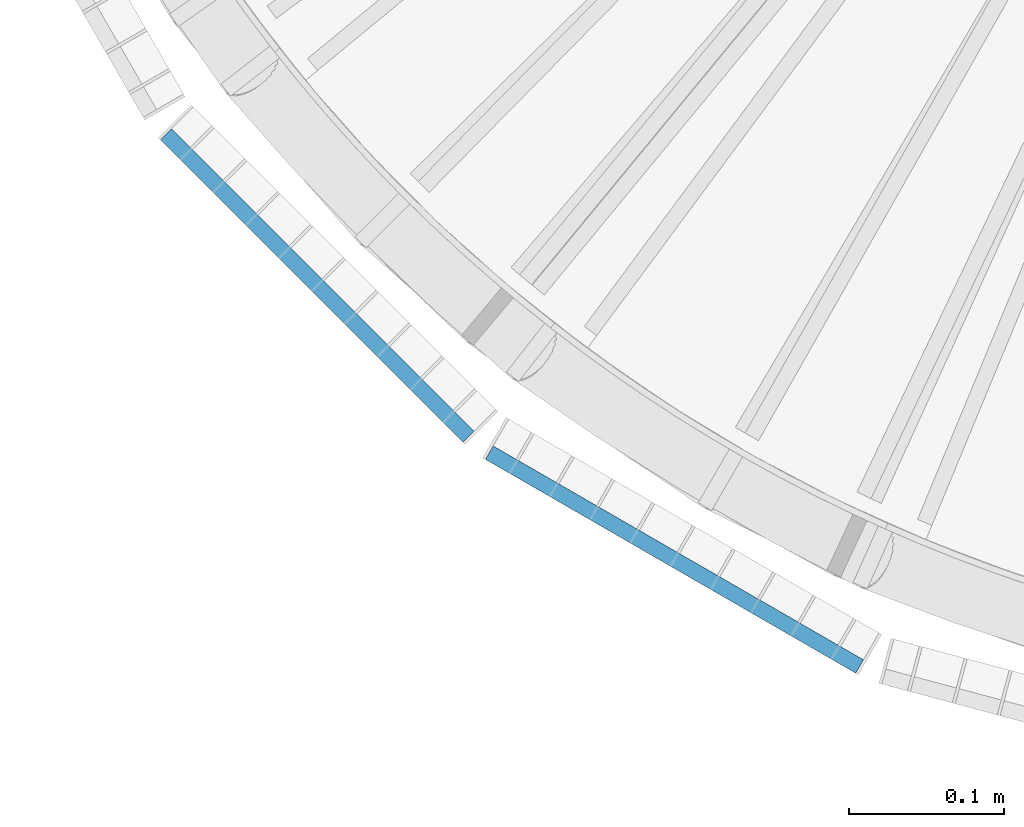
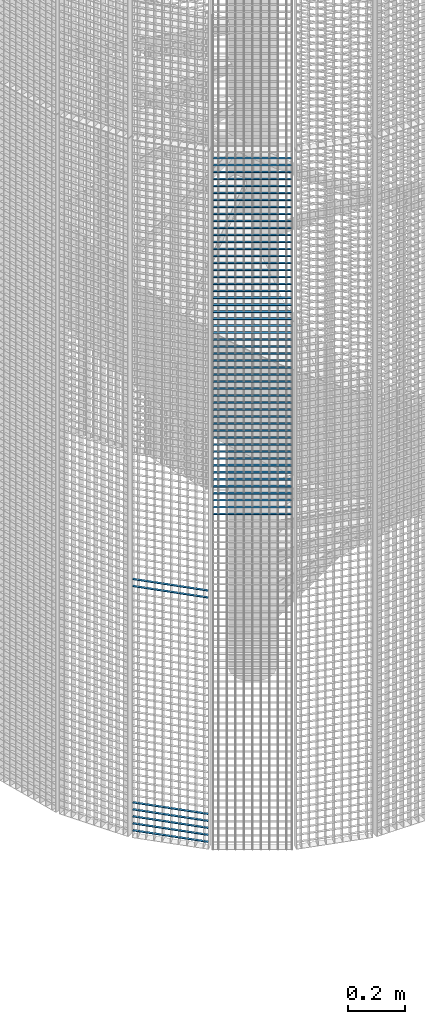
# One storey, part 370 of 1148: 59 beams, 2 elements without a shape of their own.
"""IFC2X3 building model written with IfcOpenShell, lengths in millimetres."""

from ifc_helpers import new_model, si_unit, frame, origin_with_axes, origin_2d_with_axis, place, context, subcontext, project, spatial, rectangle, extrude, material, type_object, element, aggregate, save


model = new_model("IFC2X3")

# Units and contexts
model_context = context("Model", 3, precision=1e-05, world=origin_with_axes())
body_context = subcontext(model_context, "Body", "Model", "MODEL_VIEW")
ifc_project = project(units=[si_unit("LENGTHUNIT", "METRE", prefix="MILLI"), si_unit("AREAUNIT", "SQUARE_METRE"), si_unit("VOLUMEUNIT", "CUBIC_METRE"), si_unit("MASSUNIT", "GRAM", prefix="KILO"), si_unit("TIMEUNIT", "SECOND"), si_unit("PLANEANGLEUNIT", "RADIAN"), si_unit("SOLIDANGLEUNIT", "STERADIAN"), si_unit("THERMODYNAMICTEMPERATUREUNIT", "DEGREE_CELSIUS"), si_unit("LUMINOUSINTENSITYUNIT", "LUMEN")], contexts=[model_context])

# Site, building, storey
site_placement = place(None, origin_with_axes())
site = spatial("IfcSite", under=ifc_project, at=site_placement, Name="Undefined", CompositionType="ELEMENT")
building_placement = place(site_placement, origin_with_axes())
building = spatial("IfcBuilding", under=site, at=building_placement, Name="Undefined", CompositionType="ELEMENT")
storey_placement = place(building_placement, origin_with_axes())
storey = spatial("IfcBuildingStorey", under=building, at=storey_placement, Name="Undefined", CompositionType="ELEMENT", Elevation=0.0)

# Assembly, beams
assembly_1_placement = place(storey_placement, origin_with_axes())
assembly_1 = element("IfcElementAssembly", 1, at=assembly_1_placement, inside=storey, Name="BORDURE", AssemblyPlace="NOTDEFINED", PredefinedType="NOTDEFINED")
ifc_material = material(Name="STEEL/S235JR")
beam_type = type_object("IfcBeamType", Name="PL2*10", PredefinedType="NOTDEFINED")
beam_1_placement = place(assembly_1_placement, frame((20910.2286510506, -884.927168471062, 149.999999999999), z_axis=(-0.70710678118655, -0.707106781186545, 0.0), x_axis=(-0.707106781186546, 0.707106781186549, 0.0)))
beam_1 = element("IfcBeam", 2, at=beam_1_placement, type_object=beam_type, material=ifc_material, Name="ENTRETOISE", context=body_context, shape_type="SweptSolid", body=[
    extrude(rectangle(XDim=2.0, YDim=10.0, at=origin_2d_with_axis()), frame((275.999999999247, 9.09494701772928e-13, 1.53210777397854e-14), z_axis=(-1.0, 0.0, 0.0), x_axis=(0.0, -1.0, 0.0)), (0.0, 0.0, 1.0), 276.0),
])
beam_2_placement = place(assembly_1_placement, frame((20910.2286510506, -884.927168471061, 119.999999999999), z_axis=(-0.70710678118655, -0.707106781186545, 0.0), x_axis=(-0.707106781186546, 0.707106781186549, 0.0)))
beam_2 = element("IfcBeam", 3, at=beam_2_placement, type_object=beam_type, material=ifc_material, Name="ENTRETOISE", context=body_context, shape_type="SweptSolid", body=[
    extrude(rectangle(XDim=2.0, YDim=10.0, at=origin_2d_with_axis()), frame((275.999999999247, 9.09494701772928e-13, 1.53210777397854e-14), z_axis=(-1.0, 0.0, 0.0), x_axis=(0.0, -1.0, 0.0)), (0.0, 0.0, 1.0), 276.0),
])
beam_3_placement = place(assembly_1_placement, frame((20910.2286510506, -884.927168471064, 1080.0), z_axis=(-0.70710678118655, -0.707106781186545, 0.0), x_axis=(-0.707106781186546, 0.707106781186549, 0.0)))
beam_3 = element("IfcBeam", 4, at=beam_3_placement, type_object=beam_type, material=ifc_material, Name="ENTRETOISE", context=body_context, shape_type="SweptSolid", body=[
    extrude(rectangle(XDim=2.0, YDim=10.0, at=origin_2d_with_axis()), frame((275.999999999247, 9.09494701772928e-13, 1.53210777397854e-14), z_axis=(-1.0, 0.0, 0.0), x_axis=(0.0, -1.0, 0.0)), (0.0, 0.0, 1.0), 276.0),
])
beam_4_placement = place(assembly_1_placement, frame((20910.2286510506, -884.927168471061, 89.9999999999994), z_axis=(-0.70710678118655, -0.707106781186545, 0.0), x_axis=(-0.707106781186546, 0.707106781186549, 0.0)))
beam_4 = element("IfcBeam", 5, at=beam_4_placement, type_object=beam_type, material=ifc_material, Name="ENTRETOISE", context=body_context, shape_type="SweptSolid", body=[
    extrude(rectangle(XDim=2.0, YDim=10.0, at=origin_2d_with_axis()), frame((275.999999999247, 9.09494701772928e-13, 1.53210777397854e-14), z_axis=(-1.0, 0.0, 0.0), x_axis=(0.0, -1.0, 0.0)), (0.0, 0.0, 1.0), 276.0),
])
beam_5_placement = place(assembly_1_placement, frame((20910.2286510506, -884.927168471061, 59.9999999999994), z_axis=(-0.70710678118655, -0.707106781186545, 0.0), x_axis=(-0.707106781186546, 0.707106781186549, 0.0)))
beam_5 = element("IfcBeam", 6, at=beam_5_placement, type_object=beam_type, material=ifc_material, Name="ENTRETOISE", context=body_context, shape_type="SweptSolid", body=[
    extrude(rectangle(XDim=2.0, YDim=10.0, at=origin_2d_with_axis()), frame((275.999999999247, 9.09494701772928e-13, 1.53210777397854e-14), z_axis=(-1.0, 0.0, 0.0), x_axis=(0.0, -1.0, 0.0)), (0.0, 0.0, 1.0), 276.0),
])
beam_6_placement = place(assembly_1_placement, frame((20910.2286510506, -884.927168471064, 1110.0), z_axis=(-0.70710678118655, -0.707106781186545, 0.0), x_axis=(-0.707106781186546, 0.707106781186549, 0.0)))
beam_6 = element("IfcBeam", 7, at=beam_6_placement, type_object=beam_type, material=ifc_material, Name="ENTRETOISE", context=body_context, shape_type="SweptSolid", body=[
    extrude(rectangle(XDim=2.0, YDim=10.0, at=origin_2d_with_axis()), frame((275.999999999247, 9.09494701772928e-13, 1.53210777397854e-14), z_axis=(-1.0, 0.0, 0.0), x_axis=(0.0, -1.0, 0.0)), (0.0, 0.0, 1.0), 276.0),
])
beam_7_placement = place(assembly_1_placement, frame((20910.2286510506, -884.92716847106, 29.9999999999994), z_axis=(-0.70710678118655, -0.707106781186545, 0.0), x_axis=(-0.707106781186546, 0.707106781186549, 0.0)))
beam_7 = element("IfcBeam", 8, at=beam_7_placement, type_object=beam_type, material=ifc_material, Name="ENTRETOISE", context=body_context, shape_type="SweptSolid", body=[
    extrude(rectangle(XDim=2.0, YDim=10.0, at=origin_2d_with_axis()), frame((275.999999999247, 9.09494701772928e-13, 1.53210777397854e-14), z_axis=(-1.0, 0.0, 0.0), x_axis=(0.0, -1.0, 0.0)), (0.0, 0.0, 1.0), 276.0),
])
aggregate(assembly_1, [beam_1, beam_2, beam_3, beam_4, beam_5, beam_6, beam_7])

assembly_2_placement = place(storey_placement, origin_with_axes())
assembly_2 = element("IfcElementAssembly", 9, at=assembly_2_placement, inside=storey, Name="BORDURE", AssemblyPlace="NOTDEFINED", PredefinedType="NOTDEFINED")
beam_8_placement = place(assembly_2_placement, frame((21162.7680445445, -1033.29996828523, 2970.0), z_axis=(-0.49999999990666, -0.866025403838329, 0.0), x_axis=(-0.866025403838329, 0.499999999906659, 0.0)))
beam_8 = element("IfcBeam", 10, at=beam_8_placement, type_object=beam_type, material=ifc_material, Name="ENTRETOISE", context=body_context, shape_type="SweptSolid", body=[
    extrude(rectangle(XDim=2.0, YDim=10.0, at=origin_2d_with_axis()), frame((275.999999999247, 9.09494701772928e-13, 1.53210777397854e-14), z_axis=(-1.0, 0.0, 0.0), x_axis=(0.0, -1.0, 0.0)), (0.0, 0.0, 1.0), 276.0),
])
beam_9_placement = place(assembly_2_placement, frame((21162.7680445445, -1033.29996828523, 2940.0), z_axis=(-0.49999999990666, -0.866025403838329, 0.0), x_axis=(-0.866025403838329, 0.499999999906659, 0.0)))
beam_9 = element("IfcBeam", 11, at=beam_9_placement, type_object=beam_type, material=ifc_material, Name="ENTRETOISE", context=body_context, shape_type="SweptSolid", body=[
    extrude(rectangle(XDim=2.0, YDim=10.0, at=origin_2d_with_axis()), frame((275.999999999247, 9.09494701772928e-13, 1.53210777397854e-14), z_axis=(-1.0, 0.0, 0.0), x_axis=(0.0, -1.0, 0.0)), (0.0, 0.0, 1.0), 276.0),
])
beam_10_placement = place(assembly_2_placement, frame((21162.7680445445, -1033.29996828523, 2910.0), z_axis=(-0.49999999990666, -0.866025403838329, 0.0), x_axis=(-0.866025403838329, 0.499999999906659, 0.0)))
beam_10 = element("IfcBeam", 12, at=beam_10_placement, type_object=beam_type, material=ifc_material, Name="ENTRETOISE", context=body_context, shape_type="SweptSolid", body=[
    extrude(rectangle(XDim=2.0, YDim=10.0, at=origin_2d_with_axis()), frame((275.999999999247, 9.09494701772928e-13, 1.53210777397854e-14), z_axis=(-1.0, 0.0, 0.0), x_axis=(0.0, -1.0, 0.0)), (0.0, 0.0, 1.0), 276.0),
])
beam_11_placement = place(assembly_2_placement, frame((21162.7680445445, -1033.29996828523, 2880.0), z_axis=(-0.49999999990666, -0.866025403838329, 0.0), x_axis=(-0.866025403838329, 0.499999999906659, 0.0)))
beam_11 = element("IfcBeam", 13, at=beam_11_placement, type_object=beam_type, material=ifc_material, Name="ENTRETOISE", context=body_context, shape_type="SweptSolid", body=[
    extrude(rectangle(XDim=2.0, YDim=10.0, at=origin_2d_with_axis()), frame((275.999999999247, 9.09494701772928e-13, 1.53210777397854e-14), z_axis=(-1.0, 0.0, 0.0), x_axis=(0.0, -1.0, 0.0)), (0.0, 0.0, 1.0), 276.0),
])
beam_12_placement = place(assembly_2_placement, frame((21162.7680445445, -1033.29996828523, 2850.0), z_axis=(-0.49999999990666, -0.866025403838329, 0.0), x_axis=(-0.866025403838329, 0.499999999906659, 0.0)))
beam_12 = element("IfcBeam", 14, at=beam_12_placement, type_object=beam_type, material=ifc_material, Name="ENTRETOISE", context=body_context, shape_type="SweptSolid", body=[
    extrude(rectangle(XDim=2.0, YDim=10.0, at=origin_2d_with_axis()), frame((275.999999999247, 9.09494701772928e-13, 1.53210777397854e-14), z_axis=(-1.0, 0.0, 0.0), x_axis=(0.0, -1.0, 0.0)), (0.0, 0.0, 1.0), 276.0),
])
beam_13_placement = place(assembly_2_placement, frame((21162.7680445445, -1033.29996828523, 2820.0), z_axis=(-0.49999999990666, -0.866025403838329, 0.0), x_axis=(-0.866025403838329, 0.499999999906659, 0.0)))
beam_13 = element("IfcBeam", 15, at=beam_13_placement, type_object=beam_type, material=ifc_material, Name="ENTRETOISE", context=body_context, shape_type="SweptSolid", body=[
    extrude(rectangle(XDim=2.0, YDim=10.0, at=origin_2d_with_axis()), frame((275.999999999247, 9.09494701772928e-13, 1.53210777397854e-14), z_axis=(-1.0, 0.0, 0.0), x_axis=(0.0, -1.0, 0.0)), (0.0, 0.0, 1.0), 276.0),
])
beam_14_placement = place(assembly_2_placement, frame((21162.7680445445, -1033.29996828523, 2790.0), z_axis=(-0.49999999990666, -0.866025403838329, 0.0), x_axis=(-0.866025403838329, 0.499999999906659, 0.0)))
beam_14 = element("IfcBeam", 16, at=beam_14_placement, type_object=beam_type, material=ifc_material, Name="ENTRETOISE", context=body_context, shape_type="SweptSolid", body=[
    extrude(rectangle(XDim=2.0, YDim=10.0, at=origin_2d_with_axis()), frame((275.999999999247, 9.09494701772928e-13, 1.53210777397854e-14), z_axis=(-1.0, 0.0, 0.0), x_axis=(0.0, -1.0, 0.0)), (0.0, 0.0, 1.0), 276.0),
])
beam_15_placement = place(assembly_2_placement, frame((21162.7680445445, -1033.29996828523, 2760.0), z_axis=(-0.49999999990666, -0.866025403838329, 0.0), x_axis=(-0.866025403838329, 0.499999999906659, 0.0)))
beam_15 = element("IfcBeam", 17, at=beam_15_placement, type_object=beam_type, material=ifc_material, Name="ENTRETOISE", context=body_context, shape_type="SweptSolid", body=[
    extrude(rectangle(XDim=2.0, YDim=10.0, at=origin_2d_with_axis()), frame((275.999999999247, 9.09494701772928e-13, 1.53210777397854e-14), z_axis=(-1.0, 0.0, 0.0), x_axis=(0.0, -1.0, 0.0)), (0.0, 0.0, 1.0), 276.0),
])
beam_16_placement = place(assembly_2_placement, frame((21162.7680445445, -1033.29996828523, 2730.0), z_axis=(-0.49999999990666, -0.866025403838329, 0.0), x_axis=(-0.866025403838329, 0.499999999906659, 0.0)))
beam_16 = element("IfcBeam", 18, at=beam_16_placement, type_object=beam_type, material=ifc_material, Name="ENTRETOISE", context=body_context, shape_type="SweptSolid", body=[
    extrude(rectangle(XDim=2.0, YDim=10.0, at=origin_2d_with_axis()), frame((275.999999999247, 9.09494701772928e-13, 1.53210777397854e-14), z_axis=(-1.0, 0.0, 0.0), x_axis=(0.0, -1.0, 0.0)), (0.0, 0.0, 1.0), 276.0),
])
beam_17_placement = place(assembly_2_placement, frame((21162.7680445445, -1033.29996828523, 2700.0), z_axis=(-0.49999999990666, -0.866025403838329, 0.0), x_axis=(-0.866025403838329, 0.499999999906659, 0.0)))
beam_17 = element("IfcBeam", 19, at=beam_17_placement, type_object=beam_type, material=ifc_material, Name="ENTRETOISE", context=body_context, shape_type="SweptSolid", body=[
    extrude(rectangle(XDim=2.0, YDim=10.0, at=origin_2d_with_axis()), frame((275.999999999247, 9.09494701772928e-13, 1.53210777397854e-14), z_axis=(-1.0, 0.0, 0.0), x_axis=(0.0, -1.0, 0.0)), (0.0, 0.0, 1.0), 276.0),
])
beam_18_placement = place(assembly_2_placement, frame((21162.7680445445, -1033.29996828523, 2670.0), z_axis=(-0.49999999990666, -0.866025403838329, 0.0), x_axis=(-0.866025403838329, 0.499999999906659, 0.0)))
beam_18 = element("IfcBeam", 20, at=beam_18_placement, type_object=beam_type, material=ifc_material, Name="ENTRETOISE", context=body_context, shape_type="SweptSolid", body=[
    extrude(rectangle(XDim=2.0, YDim=10.0, at=origin_2d_with_axis()), frame((275.999999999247, 9.09494701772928e-13, 1.53210777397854e-14), z_axis=(-1.0, 0.0, 0.0), x_axis=(0.0, -1.0, 0.0)), (0.0, 0.0, 1.0), 276.0),
])
beam_19_placement = place(assembly_2_placement, frame((21162.7680445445, -1033.29996828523, 2640.0), z_axis=(-0.49999999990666, -0.866025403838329, 0.0), x_axis=(-0.866025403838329, 0.499999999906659, 0.0)))
beam_19 = element("IfcBeam", 21, at=beam_19_placement, type_object=beam_type, material=ifc_material, Name="ENTRETOISE", context=body_context, shape_type="SweptSolid", body=[
    extrude(rectangle(XDim=2.0, YDim=10.0, at=origin_2d_with_axis()), frame((275.999999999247, 9.09494701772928e-13, 1.53210777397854e-14), z_axis=(-1.0, 0.0, 0.0), x_axis=(0.0, -1.0, 0.0)), (0.0, 0.0, 1.0), 276.0),
])
beam_20_placement = place(assembly_2_placement, frame((21162.7680445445, -1033.29996828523, 2610.0), z_axis=(-0.49999999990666, -0.866025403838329, 0.0), x_axis=(-0.866025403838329, 0.499999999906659, 0.0)))
beam_20 = element("IfcBeam", 22, at=beam_20_placement, type_object=beam_type, material=ifc_material, Name="ENTRETOISE", context=body_context, shape_type="SweptSolid", body=[
    extrude(rectangle(XDim=2.0, YDim=10.0, at=origin_2d_with_axis()), frame((275.999999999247, 9.09494701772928e-13, 1.53210777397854e-14), z_axis=(-1.0, 0.0, 0.0), x_axis=(0.0, -1.0, 0.0)), (0.0, 0.0, 1.0), 276.0),
])
beam_21_placement = place(assembly_2_placement, frame((21162.7680445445, -1033.29996828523, 2580.0), z_axis=(-0.49999999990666, -0.866025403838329, 0.0), x_axis=(-0.866025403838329, 0.499999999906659, 0.0)))
beam_21 = element("IfcBeam", 23, at=beam_21_placement, type_object=beam_type, material=ifc_material, Name="ENTRETOISE", context=body_context, shape_type="SweptSolid", body=[
    extrude(rectangle(XDim=2.0, YDim=10.0, at=origin_2d_with_axis()), frame((275.999999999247, 9.09494701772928e-13, 1.53210777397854e-14), z_axis=(-1.0, 0.0, 0.0), x_axis=(0.0, -1.0, 0.0)), (0.0, 0.0, 1.0), 276.0),
])
beam_22_placement = place(assembly_2_placement, frame((21162.7680445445, -1033.29996828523, 2550.0), z_axis=(-0.49999999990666, -0.866025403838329, 0.0), x_axis=(-0.866025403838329, 0.499999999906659, 0.0)))
beam_22 = element("IfcBeam", 24, at=beam_22_placement, type_object=beam_type, material=ifc_material, Name="ENTRETOISE", context=body_context, shape_type="SweptSolid", body=[
    extrude(rectangle(XDim=2.0, YDim=10.0, at=origin_2d_with_axis()), frame((275.999999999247, 9.09494701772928e-13, 1.53210777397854e-14), z_axis=(-1.0, 0.0, 0.0), x_axis=(0.0, -1.0, 0.0)), (0.0, 0.0, 1.0), 276.0),
])
beam_23_placement = place(assembly_2_placement, frame((21162.7680445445, -1033.29996828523, 2520.0), z_axis=(-0.49999999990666, -0.866025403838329, 0.0), x_axis=(-0.866025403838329, 0.499999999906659, 0.0)))
beam_23 = element("IfcBeam", 25, at=beam_23_placement, type_object=beam_type, material=ifc_material, Name="ENTRETOISE", context=body_context, shape_type="SweptSolid", body=[
    extrude(rectangle(XDim=2.0, YDim=10.0, at=origin_2d_with_axis()), frame((275.999999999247, 9.09494701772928e-13, 1.53210777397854e-14), z_axis=(-1.0, 0.0, 0.0), x_axis=(0.0, -1.0, 0.0)), (0.0, 0.0, 1.0), 276.0),
])
beam_24_placement = place(assembly_2_placement, frame((21162.7680445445, -1033.29996828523, 2490.0), z_axis=(-0.49999999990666, -0.866025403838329, 0.0), x_axis=(-0.866025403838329, 0.499999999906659, 0.0)))
beam_24 = element("IfcBeam", 26, at=beam_24_placement, type_object=beam_type, material=ifc_material, Name="ENTRETOISE", context=body_context, shape_type="SweptSolid", body=[
    extrude(rectangle(XDim=2.0, YDim=10.0, at=origin_2d_with_axis()), frame((275.999999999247, 9.09494701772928e-13, 1.53210777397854e-14), z_axis=(-1.0, 0.0, 0.0), x_axis=(0.0, -1.0, 0.0)), (0.0, 0.0, 1.0), 276.0),
])
beam_25_placement = place(assembly_2_placement, frame((21162.7680445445, -1033.29996828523, 2460.0), z_axis=(-0.49999999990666, -0.866025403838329, 0.0), x_axis=(-0.866025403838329, 0.499999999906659, 0.0)))
beam_25 = element("IfcBeam", 27, at=beam_25_placement, type_object=beam_type, material=ifc_material, Name="ENTRETOISE", context=body_context, shape_type="SweptSolid", body=[
    extrude(rectangle(XDim=2.0, YDim=10.0, at=origin_2d_with_axis()), frame((275.999999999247, 9.09494701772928e-13, 1.53210777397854e-14), z_axis=(-1.0, 0.0, 0.0), x_axis=(0.0, -1.0, 0.0)), (0.0, 0.0, 1.0), 276.0),
])
beam_26_placement = place(assembly_2_placement, frame((21162.7680445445, -1033.29996828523, 2430.0), z_axis=(-0.49999999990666, -0.866025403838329, 0.0), x_axis=(-0.866025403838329, 0.499999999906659, 0.0)))
beam_26 = element("IfcBeam", 28, at=beam_26_placement, type_object=beam_type, material=ifc_material, Name="ENTRETOISE", context=body_context, shape_type="SweptSolid", body=[
    extrude(rectangle(XDim=2.0, YDim=10.0, at=origin_2d_with_axis()), frame((275.999999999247, 9.09494701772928e-13, 1.53210777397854e-14), z_axis=(-1.0, 0.0, 0.0), x_axis=(0.0, -1.0, 0.0)), (0.0, 0.0, 1.0), 276.0),
])
beam_27_placement = place(assembly_2_placement, frame((21162.7680445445, -1033.29996828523, 2400.0), z_axis=(-0.49999999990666, -0.866025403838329, 0.0), x_axis=(-0.866025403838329, 0.499999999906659, 0.0)))
beam_27 = element("IfcBeam", 29, at=beam_27_placement, type_object=beam_type, material=ifc_material, Name="ENTRETOISE", context=body_context, shape_type="SweptSolid", body=[
    extrude(rectangle(XDim=2.0, YDim=10.0, at=origin_2d_with_axis()), frame((275.999999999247, 9.09494701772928e-13, 1.53210777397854e-14), z_axis=(-1.0, 0.0, 0.0), x_axis=(0.0, -1.0, 0.0)), (0.0, 0.0, 1.0), 276.0),
])
beam_28_placement = place(assembly_2_placement, frame((21162.7680445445, -1033.29996828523, 2370.0), z_axis=(-0.49999999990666, -0.866025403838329, 0.0), x_axis=(-0.866025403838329, 0.499999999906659, 0.0)))
beam_28 = element("IfcBeam", 30, at=beam_28_placement, type_object=beam_type, material=ifc_material, Name="ENTRETOISE", context=body_context, shape_type="SweptSolid", body=[
    extrude(rectangle(XDim=2.0, YDim=10.0, at=origin_2d_with_axis()), frame((275.999999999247, 9.09494701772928e-13, 1.53210777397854e-14), z_axis=(-1.0, 0.0, 0.0), x_axis=(0.0, -1.0, 0.0)), (0.0, 0.0, 1.0), 276.0),
])
beam_29_placement = place(assembly_2_placement, frame((21162.7680445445, -1033.29996828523, 2340.0), z_axis=(-0.49999999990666, -0.866025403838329, 0.0), x_axis=(-0.866025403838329, 0.499999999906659, 0.0)))
beam_29 = element("IfcBeam", 31, at=beam_29_placement, type_object=beam_type, material=ifc_material, Name="ENTRETOISE", context=body_context, shape_type="SweptSolid", body=[
    extrude(rectangle(XDim=2.0, YDim=10.0, at=origin_2d_with_axis()), frame((275.999999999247, 9.09494701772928e-13, 1.53210777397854e-14), z_axis=(-1.0, 0.0, 0.0), x_axis=(0.0, -1.0, 0.0)), (0.0, 0.0, 1.0), 276.0),
])
beam_30_placement = place(assembly_2_placement, frame((21162.7680445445, -1033.29996828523, 2310.0), z_axis=(-0.49999999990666, -0.866025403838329, 0.0), x_axis=(-0.866025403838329, 0.499999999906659, 0.0)))
beam_30 = element("IfcBeam", 32, at=beam_30_placement, type_object=beam_type, material=ifc_material, Name="ENTRETOISE", context=body_context, shape_type="SweptSolid", body=[
    extrude(rectangle(XDim=2.0, YDim=10.0, at=origin_2d_with_axis()), frame((275.999999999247, 9.09494701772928e-13, 1.53210777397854e-14), z_axis=(-1.0, 0.0, 0.0), x_axis=(0.0, -1.0, 0.0)), (0.0, 0.0, 1.0), 276.0),
])
beam_31_placement = place(assembly_2_placement, frame((21162.7680445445, -1033.29996828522, 2280.0), z_axis=(-0.49999999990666, -0.866025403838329, 0.0), x_axis=(-0.866025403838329, 0.499999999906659, 0.0)))
beam_31 = element("IfcBeam", 33, at=beam_31_placement, type_object=beam_type, material=ifc_material, Name="ENTRETOISE", context=body_context, shape_type="SweptSolid", body=[
    extrude(rectangle(XDim=2.0, YDim=10.0, at=origin_2d_with_axis()), frame((275.999999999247, 9.09494701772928e-13, 1.53210777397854e-14), z_axis=(-1.0, 0.0, 0.0), x_axis=(0.0, -1.0, 0.0)), (0.0, 0.0, 1.0), 276.0),
])
beam_32_placement = place(assembly_2_placement, frame((21162.7680445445, -1033.29996828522, 2250.0), z_axis=(-0.49999999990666, -0.866025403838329, 0.0), x_axis=(-0.866025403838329, 0.499999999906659, 0.0)))
beam_32 = element("IfcBeam", 34, at=beam_32_placement, type_object=beam_type, material=ifc_material, Name="ENTRETOISE", context=body_context, shape_type="SweptSolid", body=[
    extrude(rectangle(XDim=2.0, YDim=10.0, at=origin_2d_with_axis()), frame((275.999999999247, 9.09494701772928e-13, 1.53210777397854e-14), z_axis=(-1.0, 0.0, 0.0), x_axis=(0.0, -1.0, 0.0)), (0.0, 0.0, 1.0), 276.0),
])
beam_33_placement = place(assembly_2_placement, frame((21162.7680445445, -1033.29996828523, 2220.0), z_axis=(-0.49999999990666, -0.866025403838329, 0.0), x_axis=(-0.866025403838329, 0.499999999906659, 0.0)))
beam_33 = element("IfcBeam", 35, at=beam_33_placement, type_object=beam_type, material=ifc_material, Name="ENTRETOISE", context=body_context, shape_type="SweptSolid", body=[
    extrude(rectangle(XDim=2.0, YDim=10.0, at=origin_2d_with_axis()), frame((275.999999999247, 9.09494701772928e-13, 1.53210777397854e-14), z_axis=(-1.0, 0.0, 0.0), x_axis=(0.0, -1.0, 0.0)), (0.0, 0.0, 1.0), 276.0),
])
beam_34_placement = place(assembly_2_placement, frame((21162.7680445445, -1033.29996828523, 2190.0), z_axis=(-0.49999999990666, -0.866025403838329, 0.0), x_axis=(-0.866025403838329, 0.499999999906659, 0.0)))
beam_34 = element("IfcBeam", 36, at=beam_34_placement, type_object=beam_type, material=ifc_material, Name="ENTRETOISE", context=body_context, shape_type="SweptSolid", body=[
    extrude(rectangle(XDim=2.0, YDim=10.0, at=origin_2d_with_axis()), frame((275.999999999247, 9.09494701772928e-13, 1.53210777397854e-14), z_axis=(-1.0, 0.0, 0.0), x_axis=(0.0, -1.0, 0.0)), (0.0, 0.0, 1.0), 276.0),
])
beam_35_placement = place(assembly_2_placement, frame((21162.7680445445, -1033.29996828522, 2160.0), z_axis=(-0.49999999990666, -0.866025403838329, 0.0), x_axis=(-0.866025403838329, 0.499999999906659, 0.0)))
beam_35 = element("IfcBeam", 37, at=beam_35_placement, type_object=beam_type, material=ifc_material, Name="ENTRETOISE", context=body_context, shape_type="SweptSolid", body=[
    extrude(rectangle(XDim=2.0, YDim=10.0, at=origin_2d_with_axis()), frame((275.999999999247, 9.09494701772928e-13, 1.53210777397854e-14), z_axis=(-1.0, 0.0, 0.0), x_axis=(0.0, -1.0, 0.0)), (0.0, 0.0, 1.0), 276.0),
])
beam_36_placement = place(assembly_2_placement, frame((21162.7680445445, -1033.29996828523, 2130.0), z_axis=(-0.49999999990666, -0.866025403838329, 0.0), x_axis=(-0.866025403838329, 0.499999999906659, 0.0)))
beam_36 = element("IfcBeam", 38, at=beam_36_placement, type_object=beam_type, material=ifc_material, Name="ENTRETOISE", context=body_context, shape_type="SweptSolid", body=[
    extrude(rectangle(XDim=2.0, YDim=10.0, at=origin_2d_with_axis()), frame((275.999999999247, 9.09494701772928e-13, 1.53210777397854e-14), z_axis=(-1.0, 0.0, 0.0), x_axis=(0.0, -1.0, 0.0)), (0.0, 0.0, 1.0), 276.0),
])
beam_37_placement = place(assembly_2_placement, frame((21162.7680445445, -1033.29996828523, 2100.0), z_axis=(-0.49999999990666, -0.866025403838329, 0.0), x_axis=(-0.866025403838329, 0.499999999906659, 0.0)))
beam_37 = element("IfcBeam", 39, at=beam_37_placement, type_object=beam_type, material=ifc_material, Name="ENTRETOISE", context=body_context, shape_type="SweptSolid", body=[
    extrude(rectangle(XDim=2.0, YDim=10.0, at=origin_2d_with_axis()), frame((275.999999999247, 9.09494701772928e-13, 1.53210777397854e-14), z_axis=(-1.0, 0.0, 0.0), x_axis=(0.0, -1.0, 0.0)), (0.0, 0.0, 1.0), 276.0),
])
beam_38_placement = place(assembly_2_placement, frame((21162.7680445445, -1033.29996828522, 2070.0), z_axis=(-0.49999999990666, -0.866025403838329, 0.0), x_axis=(-0.866025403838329, 0.499999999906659, 0.0)))
beam_38 = element("IfcBeam", 40, at=beam_38_placement, type_object=beam_type, material=ifc_material, Name="ENTRETOISE", context=body_context, shape_type="SweptSolid", body=[
    extrude(rectangle(XDim=2.0, YDim=10.0, at=origin_2d_with_axis()), frame((275.999999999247, 9.09494701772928e-13, 1.53210777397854e-14), z_axis=(-1.0, 0.0, 0.0), x_axis=(0.0, -1.0, 0.0)), (0.0, 0.0, 1.0), 276.0),
])
beam_39_placement = place(assembly_2_placement, frame((21162.7680445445, -1033.29996828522, 2040.0), z_axis=(-0.49999999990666, -0.866025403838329, 0.0), x_axis=(-0.866025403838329, 0.499999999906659, 0.0)))
beam_39 = element("IfcBeam", 41, at=beam_39_placement, type_object=beam_type, material=ifc_material, Name="ENTRETOISE", context=body_context, shape_type="SweptSolid", body=[
    extrude(rectangle(XDim=2.0, YDim=10.0, at=origin_2d_with_axis()), frame((275.999999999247, 9.09494701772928e-13, 1.53210777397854e-14), z_axis=(-1.0, 0.0, 0.0), x_axis=(0.0, -1.0, 0.0)), (0.0, 0.0, 1.0), 276.0),
])
beam_40_placement = place(assembly_2_placement, frame((21162.7680445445, -1033.29996828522, 2010.0), z_axis=(-0.49999999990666, -0.866025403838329, 0.0), x_axis=(-0.866025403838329, 0.499999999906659, 0.0)))
beam_40 = element("IfcBeam", 42, at=beam_40_placement, type_object=beam_type, material=ifc_material, Name="ENTRETOISE", context=body_context, shape_type="SweptSolid", body=[
    extrude(rectangle(XDim=2.0, YDim=10.0, at=origin_2d_with_axis()), frame((275.999999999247, 9.09494701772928e-13, 1.53210777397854e-14), z_axis=(-1.0, 0.0, 0.0), x_axis=(0.0, -1.0, 0.0)), (0.0, 0.0, 1.0), 276.0),
])
beam_41_placement = place(assembly_2_placement, frame((21162.7680445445, -1033.29996828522, 1980.0), z_axis=(-0.49999999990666, -0.866025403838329, 0.0), x_axis=(-0.866025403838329, 0.499999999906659, 0.0)))
beam_41 = element("IfcBeam", 43, at=beam_41_placement, type_object=beam_type, material=ifc_material, Name="ENTRETOISE", context=body_context, shape_type="SweptSolid", body=[
    extrude(rectangle(XDim=2.0, YDim=10.0, at=origin_2d_with_axis()), frame((275.999999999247, 9.09494701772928e-13, 1.53210777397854e-14), z_axis=(-1.0, 0.0, 0.0), x_axis=(0.0, -1.0, 0.0)), (0.0, 0.0, 1.0), 276.0),
])
beam_42_placement = place(assembly_2_placement, frame((21162.7680445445, -1033.29996828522, 1950.0), z_axis=(-0.49999999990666, -0.866025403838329, 0.0), x_axis=(-0.866025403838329, 0.499999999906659, 0.0)))
beam_42 = element("IfcBeam", 44, at=beam_42_placement, type_object=beam_type, material=ifc_material, Name="ENTRETOISE", context=body_context, shape_type="SweptSolid", body=[
    extrude(rectangle(XDim=2.0, YDim=10.0, at=origin_2d_with_axis()), frame((275.999999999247, 9.09494701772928e-13, 1.53210777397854e-14), z_axis=(-1.0, 0.0, 0.0), x_axis=(0.0, -1.0, 0.0)), (0.0, 0.0, 1.0), 276.0),
])
beam_43_placement = place(assembly_2_placement, frame((21162.7680445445, -1033.29996828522, 1920.0), z_axis=(-0.49999999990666, -0.866025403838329, 0.0), x_axis=(-0.866025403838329, 0.499999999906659, 0.0)))
beam_43 = element("IfcBeam", 45, at=beam_43_placement, type_object=beam_type, material=ifc_material, Name="ENTRETOISE", context=body_context, shape_type="SweptSolid", body=[
    extrude(rectangle(XDim=2.0, YDim=10.0, at=origin_2d_with_axis()), frame((275.999999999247, 9.09494701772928e-13, 1.53210777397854e-14), z_axis=(-1.0, 0.0, 0.0), x_axis=(0.0, -1.0, 0.0)), (0.0, 0.0, 1.0), 276.0),
])
beam_44_placement = place(assembly_2_placement, frame((21162.7680445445, -1033.29996828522, 1890.0), z_axis=(-0.49999999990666, -0.866025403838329, 0.0), x_axis=(-0.866025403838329, 0.499999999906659, 0.0)))
beam_44 = element("IfcBeam", 46, at=beam_44_placement, type_object=beam_type, material=ifc_material, Name="ENTRETOISE", context=body_context, shape_type="SweptSolid", body=[
    extrude(rectangle(XDim=2.0, YDim=10.0, at=origin_2d_with_axis()), frame((275.999999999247, 9.09494701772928e-13, 1.53210777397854e-14), z_axis=(-1.0, 0.0, 0.0), x_axis=(0.0, -1.0, 0.0)), (0.0, 0.0, 1.0), 276.0),
])
beam_45_placement = place(assembly_2_placement, frame((21162.7680445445, -1033.29996828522, 1860.0), z_axis=(-0.49999999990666, -0.866025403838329, 0.0), x_axis=(-0.866025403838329, 0.499999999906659, 0.0)))
beam_45 = element("IfcBeam", 47, at=beam_45_placement, type_object=beam_type, material=ifc_material, Name="ENTRETOISE", context=body_context, shape_type="SweptSolid", body=[
    extrude(rectangle(XDim=2.0, YDim=10.0, at=origin_2d_with_axis()), frame((275.999999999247, 9.09494701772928e-13, 1.53210777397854e-14), z_axis=(-1.0, 0.0, 0.0), x_axis=(0.0, -1.0, 0.0)), (0.0, 0.0, 1.0), 276.0),
])
beam_46_placement = place(assembly_2_placement, frame((21162.7680445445, -1033.29996828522, 1830.0), z_axis=(-0.49999999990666, -0.866025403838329, 0.0), x_axis=(-0.866025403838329, 0.499999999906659, 0.0)))
beam_46 = element("IfcBeam", 48, at=beam_46_placement, type_object=beam_type, material=ifc_material, Name="ENTRETOISE", context=body_context, shape_type="SweptSolid", body=[
    extrude(rectangle(XDim=2.0, YDim=10.0, at=origin_2d_with_axis()), frame((275.999999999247, 9.09494701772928e-13, 1.53210777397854e-14), z_axis=(-1.0, 0.0, 0.0), x_axis=(0.0, -1.0, 0.0)), (0.0, 0.0, 1.0), 276.0),
])
beam_47_placement = place(assembly_2_placement, frame((21162.7680445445, -1033.29996828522, 1800.0), z_axis=(-0.49999999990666, -0.866025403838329, 0.0), x_axis=(-0.866025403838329, 0.499999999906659, 0.0)))
beam_47 = element("IfcBeam", 49, at=beam_47_placement, type_object=beam_type, material=ifc_material, Name="ENTRETOISE", context=body_context, shape_type="SweptSolid", body=[
    extrude(rectangle(XDim=2.0, YDim=10.0, at=origin_2d_with_axis()), frame((275.999999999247, 9.09494701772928e-13, 1.53210777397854e-14), z_axis=(-1.0, 0.0, 0.0), x_axis=(0.0, -1.0, 0.0)), (0.0, 0.0, 1.0), 276.0),
])
beam_48_placement = place(assembly_2_placement, frame((21162.7680445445, -1033.29996828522, 1770.0), z_axis=(-0.49999999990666, -0.866025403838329, 0.0), x_axis=(-0.866025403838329, 0.499999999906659, 0.0)))
beam_48 = element("IfcBeam", 50, at=beam_48_placement, type_object=beam_type, material=ifc_material, Name="ENTRETOISE", context=body_context, shape_type="SweptSolid", body=[
    extrude(rectangle(XDim=2.0, YDim=10.0, at=origin_2d_with_axis()), frame((275.999999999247, 9.09494701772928e-13, 1.53210777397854e-14), z_axis=(-1.0, 0.0, 0.0), x_axis=(0.0, -1.0, 0.0)), (0.0, 0.0, 1.0), 276.0),
])
beam_49_placement = place(assembly_2_placement, frame((21162.7680445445, -1033.29996828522, 1740.0), z_axis=(-0.49999999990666, -0.866025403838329, 0.0), x_axis=(-0.866025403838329, 0.499999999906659, 0.0)))
beam_49 = element("IfcBeam", 51, at=beam_49_placement, type_object=beam_type, material=ifc_material, Name="ENTRETOISE", context=body_context, shape_type="SweptSolid", body=[
    extrude(rectangle(XDim=2.0, YDim=10.0, at=origin_2d_with_axis()), frame((275.999999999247, 9.09494701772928e-13, 1.53210777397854e-14), z_axis=(-1.0, 0.0, 0.0), x_axis=(0.0, -1.0, 0.0)), (0.0, 0.0, 1.0), 276.0),
])
beam_50_placement = place(assembly_2_placement, frame((21162.7680445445, -1033.29996828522, 1710.0), z_axis=(-0.49999999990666, -0.866025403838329, 0.0), x_axis=(-0.866025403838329, 0.499999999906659, 0.0)))
beam_50 = element("IfcBeam", 52, at=beam_50_placement, type_object=beam_type, material=ifc_material, Name="ENTRETOISE", context=body_context, shape_type="SweptSolid", body=[
    extrude(rectangle(XDim=2.0, YDim=10.0, at=origin_2d_with_axis()), frame((275.999999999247, 9.09494701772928e-13, 1.53210777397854e-14), z_axis=(-1.0, 0.0, 0.0), x_axis=(0.0, -1.0, 0.0)), (0.0, 0.0, 1.0), 276.0),
])
beam_51_placement = place(assembly_2_placement, frame((21162.7680445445, -1033.29996828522, 1680.0), z_axis=(-0.49999999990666, -0.866025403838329, 0.0), x_axis=(-0.866025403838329, 0.499999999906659, 0.0)))
beam_51 = element("IfcBeam", 53, at=beam_51_placement, type_object=beam_type, material=ifc_material, Name="ENTRETOISE", context=body_context, shape_type="SweptSolid", body=[
    extrude(rectangle(XDim=2.0, YDim=10.0, at=origin_2d_with_axis()), frame((275.999999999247, 9.09494701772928e-13, 1.53210777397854e-14), z_axis=(-1.0, 0.0, 0.0), x_axis=(0.0, -1.0, 0.0)), (0.0, 0.0, 1.0), 276.0),
])
beam_52_placement = place(assembly_2_placement, frame((21162.7680445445, -1033.29996828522, 1650.0), z_axis=(-0.49999999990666, -0.866025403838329, 0.0), x_axis=(-0.866025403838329, 0.499999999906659, 0.0)))
beam_52 = element("IfcBeam", 54, at=beam_52_placement, type_object=beam_type, material=ifc_material, Name="ENTRETOISE", context=body_context, shape_type="SweptSolid", body=[
    extrude(rectangle(XDim=2.0, YDim=10.0, at=origin_2d_with_axis()), frame((275.999999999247, 9.09494701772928e-13, 1.53210777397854e-14), z_axis=(-1.0, 0.0, 0.0), x_axis=(0.0, -1.0, 0.0)), (0.0, 0.0, 1.0), 276.0),
])
beam_53_placement = place(assembly_2_placement, frame((21162.7680445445, -1033.29996828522, 1620.0), z_axis=(-0.49999999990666, -0.866025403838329, 0.0), x_axis=(-0.866025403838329, 0.499999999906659, 0.0)))
beam_53 = element("IfcBeam", 55, at=beam_53_placement, type_object=beam_type, material=ifc_material, Name="ENTRETOISE", context=body_context, shape_type="SweptSolid", body=[
    extrude(rectangle(XDim=2.0, YDim=10.0, at=origin_2d_with_axis()), frame((275.999999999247, 9.09494701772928e-13, 1.53210777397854e-14), z_axis=(-1.0, 0.0, 0.0), x_axis=(0.0, -1.0, 0.0)), (0.0, 0.0, 1.0), 276.0),
])
beam_54_placement = place(assembly_2_placement, frame((21162.7680445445, -1033.29996828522, 1590.0), z_axis=(-0.49999999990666, -0.866025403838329, 0.0), x_axis=(-0.866025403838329, 0.499999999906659, 0.0)))
beam_54 = element("IfcBeam", 56, at=beam_54_placement, type_object=beam_type, material=ifc_material, Name="ENTRETOISE", context=body_context, shape_type="SweptSolid", body=[
    extrude(rectangle(XDim=2.0, YDim=10.0, at=origin_2d_with_axis()), frame((275.999999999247, 9.09494701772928e-13, 1.53210777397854e-14), z_axis=(-1.0, 0.0, 0.0), x_axis=(0.0, -1.0, 0.0)), (0.0, 0.0, 1.0), 276.0),
])
beam_55_placement = place(assembly_2_placement, frame((21162.7680445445, -1033.29996828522, 1560.0), z_axis=(-0.49999999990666, -0.866025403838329, 0.0), x_axis=(-0.866025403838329, 0.499999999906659, 0.0)))
beam_55 = element("IfcBeam", 57, at=beam_55_placement, type_object=beam_type, material=ifc_material, Name="ENTRETOISE", context=body_context, shape_type="SweptSolid", body=[
    extrude(rectangle(XDim=2.0, YDim=10.0, at=origin_2d_with_axis()), frame((275.999999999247, 9.09494701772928e-13, 1.53210777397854e-14), z_axis=(-1.0, 0.0, 0.0), x_axis=(0.0, -1.0, 0.0)), (0.0, 0.0, 1.0), 276.0),
])
beam_56_placement = place(assembly_2_placement, frame((21162.7680445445, -1033.29996828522, 1530.0), z_axis=(-0.49999999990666, -0.866025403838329, 0.0), x_axis=(-0.866025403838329, 0.499999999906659, 0.0)))
beam_56 = element("IfcBeam", 58, at=beam_56_placement, type_object=beam_type, material=ifc_material, Name="ENTRETOISE", context=body_context, shape_type="SweptSolid", body=[
    extrude(rectangle(XDim=2.0, YDim=10.0, at=origin_2d_with_axis()), frame((275.999999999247, 9.09494701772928e-13, 1.53210777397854e-14), z_axis=(-1.0, 0.0, 0.0), x_axis=(0.0, -1.0, 0.0)), (0.0, 0.0, 1.0), 276.0),
])
beam_57_placement = place(assembly_2_placement, frame((21162.7680445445, -1033.29996828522, 1500.0), z_axis=(-0.49999999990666, -0.866025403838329, 0.0), x_axis=(-0.866025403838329, 0.499999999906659, 0.0)))
beam_57 = element("IfcBeam", 59, at=beam_57_placement, type_object=beam_type, material=ifc_material, Name="ENTRETOISE", context=body_context, shape_type="SweptSolid", body=[
    extrude(rectangle(XDim=2.0, YDim=10.0, at=origin_2d_with_axis()), frame((275.999999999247, 9.09494701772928e-13, 1.53210777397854e-14), z_axis=(-1.0, 0.0, 0.0), x_axis=(0.0, -1.0, 0.0)), (0.0, 0.0, 1.0), 276.0),
])
beam_58_placement = place(assembly_2_placement, frame((21162.7680445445, -1033.29996828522, 1470.0), z_axis=(-0.49999999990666, -0.866025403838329, 0.0), x_axis=(-0.866025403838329, 0.499999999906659, 0.0)))
beam_58 = element("IfcBeam", 60, at=beam_58_placement, type_object=beam_type, material=ifc_material, Name="ENTRETOISE", context=body_context, shape_type="SweptSolid", body=[
    extrude(rectangle(XDim=2.0, YDim=10.0, at=origin_2d_with_axis()), frame((275.999999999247, 9.09494701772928e-13, 1.53210777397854e-14), z_axis=(-1.0, 0.0, 0.0), x_axis=(0.0, -1.0, 0.0)), (0.0, 0.0, 1.0), 276.0),
])
beam_59_placement = place(assembly_2_placement, frame((21162.7680445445, -1033.29996828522, 1440.0), z_axis=(-0.49999999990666, -0.866025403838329, 0.0), x_axis=(-0.866025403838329, 0.499999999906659, 0.0)))
beam_59 = element("IfcBeam", 61, at=beam_59_placement, type_object=beam_type, material=ifc_material, Name="ENTRETOISE", context=body_context, shape_type="SweptSolid", body=[
    extrude(rectangle(XDim=2.0, YDim=10.0, at=origin_2d_with_axis()), frame((275.999999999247, 9.09494701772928e-13, 1.53210777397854e-14), z_axis=(-1.0, 0.0, 0.0), x_axis=(0.0, -1.0, 0.0)), (0.0, 0.0, 1.0), 276.0),
])
aggregate(assembly_2, [beam_8, beam_9, beam_10, beam_11, beam_12, beam_13, beam_14, beam_15, beam_16, beam_17, beam_18, beam_19, beam_20, beam_21, beam_22, beam_23, beam_24, beam_25, beam_26, beam_27, beam_28, beam_29, beam_30, beam_31, beam_32, beam_33, beam_34, beam_35, beam_36, beam_37, beam_38, beam_39, beam_40, beam_41, beam_42, beam_43, beam_44, beam_45, beam_46, beam_47, beam_48, beam_49, beam_50, beam_51, beam_52, beam_53, beam_54, beam_55, beam_56, beam_57, beam_58, beam_59])

save(model, "model.ifc")
